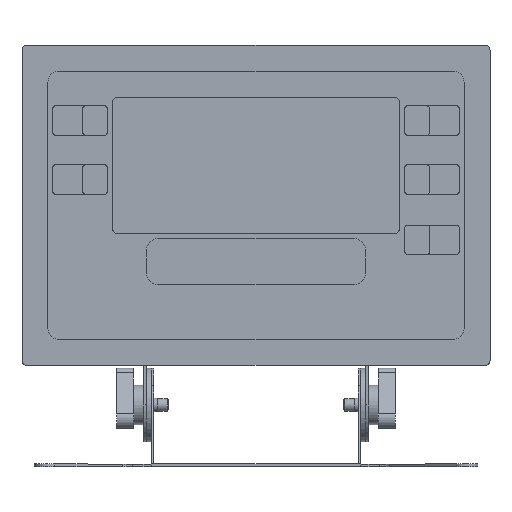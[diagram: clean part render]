
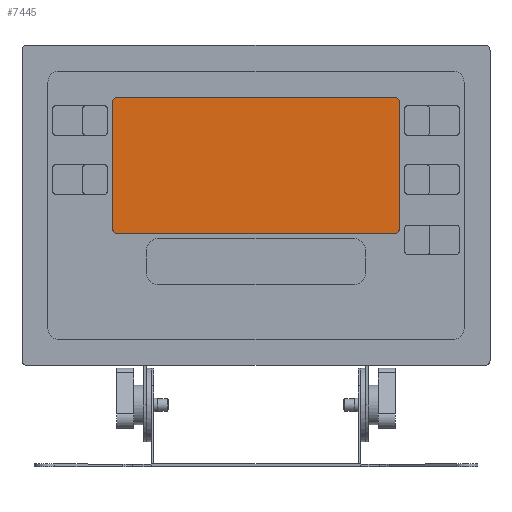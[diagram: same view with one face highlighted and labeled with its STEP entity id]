
A CAD part, top view. The second image highlights one B-rep face of the part: STEP entity #7445.
In plain terms, the highlighted planar face has unit normal (0, 0, 1).
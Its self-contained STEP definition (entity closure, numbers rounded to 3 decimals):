
#339=LINE('',#10422,#843);
#340=LINE('',#10426,#844);
#341=LINE('',#10430,#845);
#342=LINE('',#10434,#846);
#843=VECTOR('',#8792,1000.);
#844=VECTOR('',#8795,1000.);
#845=VECTOR('',#8798,1000.);
#846=VECTOR('',#8801,1000.);
#1648=ORIENTED_EDGE('',*,*,#2912,.T.);
#1649=ORIENTED_EDGE('',*,*,#2913,.T.);
#1650=ORIENTED_EDGE('',*,*,#2914,.T.);
#1651=ORIENTED_EDGE('',*,*,#2915,.T.);
#1652=ORIENTED_EDGE('',*,*,#2916,.T.);
#1653=ORIENTED_EDGE('',*,*,#2917,.T.);
#1654=ORIENTED_EDGE('',*,*,#2918,.T.);
#1655=ORIENTED_EDGE('',*,*,#2919,.T.);
#2912=EDGE_CURVE('',#3590,#3591,#3972,.T.);
#2913=EDGE_CURVE('',#3591,#3592,#339,.T.);
#2914=EDGE_CURVE('',#3592,#3593,#3973,.T.);
#2915=EDGE_CURVE('',#3593,#3594,#340,.T.);
#2916=EDGE_CURVE('',#3594,#3595,#3974,.T.);
#2917=EDGE_CURVE('',#3595,#3596,#341,.T.);
#2918=EDGE_CURVE('',#3596,#3597,#3975,.T.);
#2919=EDGE_CURVE('',#3597,#3590,#342,.T.);
#3590=VERTEX_POINT('',#10420);
#3591=VERTEX_POINT('',#10421);
#3592=VERTEX_POINT('',#10423);
#3593=VERTEX_POINT('',#10425);
#3594=VERTEX_POINT('',#10427);
#3595=VERTEX_POINT('',#10429);
#3596=VERTEX_POINT('',#10431);
#3597=VERTEX_POINT('',#10433);
#3972=CIRCLE('',#7856,2.);
#3973=CIRCLE('',#7857,2.);
#3974=CIRCLE('',#7858,2.);
#3975=CIRCLE('',#7859,2.);
#4279=EDGE_LOOP('',(#1648,#1649,#1650,#1651,#1652,#1653,#1654,#1655));
#4693=FACE_BOUND('',#4279,.T.);
#5014=PLANE('',#7855);
#7445=ADVANCED_FACE('',(#4693),#5014,.T.);
#7855=AXIS2_PLACEMENT_3D('',#10418,#8788,#8789);
#7856=AXIS2_PLACEMENT_3D('',#10419,#8790,#8791);
#7857=AXIS2_PLACEMENT_3D('',#10424,#8793,#8794);
#7858=AXIS2_PLACEMENT_3D('',#10428,#8796,#8797);
#7859=AXIS2_PLACEMENT_3D('',#10432,#8799,#8800);
#8788=DIRECTION('',(0.,0.,1.));
#8789=DIRECTION('',(1.,0.,0.));
#8790=DIRECTION('',(0.,0.,1.));
#8791=DIRECTION('',(1.,0.,0.));
#8792=DIRECTION('',(0.,-1.,0.));
#8793=DIRECTION('',(0.,0.,1.));
#8794=DIRECTION('',(1.,0.,0.));
#8795=DIRECTION('',(1.,0.,0.));
#8796=DIRECTION('',(0.,0.,1.));
#8797=DIRECTION('',(1.,0.,0.));
#8798=DIRECTION('',(0.,1.,0.));
#8799=DIRECTION('',(0.,0.,1.));
#8800=DIRECTION('',(1.,0.,0.));
#8801=DIRECTION('',(-1.,0.,0.));
#10418=CARTESIAN_POINT('',(-56.287,41.752,23.6));
#10419=CARTESIAN_POINT('',(-56.287,41.752,23.6));
#10420=CARTESIAN_POINT('',(-56.287,43.752,23.6));
#10421=CARTESIAN_POINT('',(-58.287,41.752,23.6));
#10422=CARTESIAN_POINT('',(-58.287,41.752,23.6));
#10423=CARTESIAN_POINT('',(-58.287,-9.438,23.6));
#10424=CARTESIAN_POINT('',(-56.287,-9.438,23.6));
#10425=CARTESIAN_POINT('',(-56.287,-11.438,23.6));
#10426=CARTESIAN_POINT('',(-56.287,-11.438,23.6));
#10427=CARTESIAN_POINT('',(56.287,-11.438,23.6));
#10428=CARTESIAN_POINT('',(56.287,-9.438,23.6));
#10429=CARTESIAN_POINT('',(58.287,-9.438,23.6));
#10430=CARTESIAN_POINT('',(58.287,-9.438,23.6));
#10431=CARTESIAN_POINT('',(58.287,41.752,23.6));
#10432=CARTESIAN_POINT('',(56.287,41.752,23.6));
#10433=CARTESIAN_POINT('',(56.287,43.752,23.6));
#10434=CARTESIAN_POINT('',(56.287,43.752,23.6));
